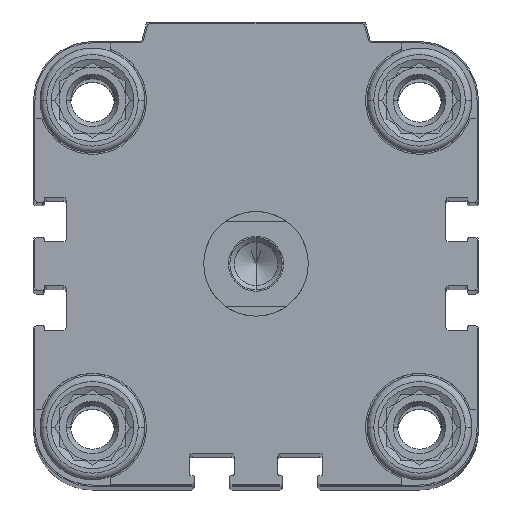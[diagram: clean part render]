
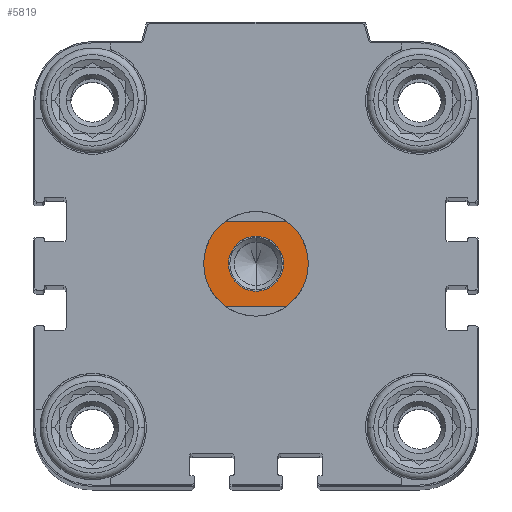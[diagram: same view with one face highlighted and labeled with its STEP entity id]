
A CAD part, top view. The second image highlights one B-rep face of the part: STEP entity #5819.
In plain terms, the highlighted planar face has unit normal (0, 0, 1).
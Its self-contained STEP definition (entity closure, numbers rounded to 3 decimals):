
#434 = DIRECTION ( 'NONE',  ( -1., 0., 0. ) ) ;
#614 = CARTESIAN_POINT ( 'NONE',  ( 8., 0., 7.5 ) ) ;
#996 = AXIS2_PLACEMENT_3D ( 'NONE', #6424, #11589, #15475 ) ;
#1095 = DIRECTION ( 'NONE',  ( -1., 0., 0. ) ) ;
#1187 = CARTESIAN_POINT ( 'NONE',  ( -4.664, 6.5, 7.5 ) ) ;
#1288 = CARTESIAN_POINT ( 'NONE',  ( 0., 0., 7.5 ) ) ;
#1438 = ORIENTED_EDGE ( 'NONE', *, *, #22442, .F. ) ;
#1703 = VECTOR ( 'NONE', #12808, 1000. ) ;
#1789 = VERTEX_POINT ( 'NONE', #1187 ) ;
#2489 = DIRECTION ( 'NONE',  ( 0., 0., -1. ) ) ;
#2519 = ORIENTED_EDGE ( 'NONE', *, *, #14056, .F. ) ;
#2920 = AXIS2_PLACEMENT_3D ( 'NONE', #15068, #9465, #18502 ) ;
#3107 = DIRECTION ( 'NONE',  ( -1., 0., 0. ) ) ;
#3408 = ORIENTED_EDGE ( 'NONE', *, *, #14472, .F. ) ;
#3797 = VERTEX_POINT ( 'NONE', #12081 ) ;
#3902 = ORIENTED_EDGE ( 'NONE', *, *, #12366, .F. ) ;
#4101 = LINE ( 'NONE', #18410, #1703 ) ;
#4196 = CARTESIAN_POINT ( 'NONE',  ( 0., 0., 7.5 ) ) ;
#4314 = AXIS2_PLACEMENT_3D ( 'NONE', #4196, #2489, #7855 ) ;
#4461 = AXIS2_PLACEMENT_3D ( 'NONE', #14664, #4474, #18096 ) ;
#4474 = DIRECTION ( 'NONE',  ( 0., 0., -1. ) ) ;
#5325 = ORIENTED_EDGE ( 'NONE', *, *, #12903, .F. ) ;
#5607 = CARTESIAN_POINT ( 'NONE',  ( -13., 6.5, 7.5 ) ) ;
#5756 = VERTEX_POINT ( 'NONE', #14683 ) ;
#5819 = ADVANCED_FACE ( 'NONE', ( #6541, #22113 ), #8490, .F. ) ;
#6287 = EDGE_LOOP ( 'NONE', ( #10599, #7750 ) ) ;
#6424 = CARTESIAN_POINT ( 'NONE',  ( 0., 0., 7.5 ) ) ;
#6541 = FACE_OUTER_BOUND ( 'NONE', #8592, .T. ) ;
#6553 = ORIENTED_EDGE ( 'NONE', *, *, #14403, .F. ) ;
#6872 = CIRCLE ( 'NONE', #4314, 4.2 ) ;
#7008 = CIRCLE ( 'NONE', #4461, 8. ) ;
#7750 = ORIENTED_EDGE ( 'NONE', *, *, #17271, .T. ) ;
#7855 = DIRECTION ( 'NONE',  ( 0., 1., 0. ) ) ;
#7903 = VECTOR ( 'NONE', #14068, 1000. ) ;
#8261 = DIRECTION ( 'NONE',  ( 0., 0., -1. ) ) ;
#8490 = PLANE ( 'NONE',  #996 ) ;
#8592 = EDGE_LOOP ( 'NONE', ( #6553, #1438, #5325, #3408, #3902, #2519 ) ) ;
#9465 = DIRECTION ( 'NONE',  ( 0., 0., -1. ) ) ;
#9976 = CIRCLE ( 'NONE', #12159, 8. ) ;
#10599 = ORIENTED_EDGE ( 'NONE', *, *, #16153, .T. ) ;
#11170 = AXIS2_PLACEMENT_3D ( 'NONE', #17811, #17921, #434 ) ;
#11346 = VERTEX_POINT ( 'NONE', #17965 ) ;
#11494 = CARTESIAN_POINT ( 'NONE',  ( 0., 0., 7.5 ) ) ;
#11589 = DIRECTION ( 'NONE',  ( 0., 0., -1. ) ) ;
#12081 = CARTESIAN_POINT ( 'NONE',  ( -8., 0., 7.5 ) ) ;
#12159 = AXIS2_PLACEMENT_3D ( 'NONE', #11494, #16762, #1095 ) ;
#12366 = EDGE_CURVE ( 'NONE', #12708, #11346, #9976, .T. ) ;
#12415 = CARTESIAN_POINT ( 'NONE',  ( -4.664, -6.5, 7.5 ) ) ;
#12696 = LINE ( 'NONE', #5607, #7903 ) ;
#12708 = VERTEX_POINT ( 'NONE', #614 ) ;
#12808 = DIRECTION ( 'NONE',  ( -1., 0., 0. ) ) ;
#12903 = EDGE_CURVE ( 'NONE', #16383, #3797, #13677, .T. ) ;
#13677 = CIRCLE ( 'NONE', #14766, 8. ) ;
#14056 = EDGE_CURVE ( 'NONE', #19049, #12708, #7008, .T. ) ;
#14068 = DIRECTION ( 'NONE',  ( 1., 0., 0. ) ) ;
#14403 = EDGE_CURVE ( 'NONE', #1789, #19049, #12696, .T. ) ;
#14472 = EDGE_CURVE ( 'NONE', #11346, #16383, #4101, .T. ) ;
#14664 = CARTESIAN_POINT ( 'NONE',  ( 0., 0., 7.5 ) ) ;
#14683 = CARTESIAN_POINT ( 'NONE',  ( 0., 4.2, 7.5 ) ) ;
#14766 = AXIS2_PLACEMENT_3D ( 'NONE', #1288, #8261, #3107 ) ;
#14881 = VERTEX_POINT ( 'NONE', #17924 ) ;
#14979 = CIRCLE ( 'NONE', #2920, 4.2 ) ;
#15068 = CARTESIAN_POINT ( 'NONE',  ( 0., 0., 7.5 ) ) ;
#15475 = DIRECTION ( 'NONE',  ( 0., 1., 0. ) ) ;
#16153 = EDGE_CURVE ( 'NONE', #5756, #14881, #6872, .T. ) ;
#16253 = CARTESIAN_POINT ( 'NONE',  ( 4.664, 6.5, 7.5 ) ) ;
#16383 = VERTEX_POINT ( 'NONE', #12415 ) ;
#16762 = DIRECTION ( 'NONE',  ( 0., 0., -1. ) ) ;
#17271 = EDGE_CURVE ( 'NONE', #14881, #5756, #14979, .T. ) ;
#17811 = CARTESIAN_POINT ( 'NONE',  ( 0., 0., 7.5 ) ) ;
#17921 = DIRECTION ( 'NONE',  ( 0., 0., -1. ) ) ;
#17924 = CARTESIAN_POINT ( 'NONE',  ( 0., -4.2, 7.5 ) ) ;
#17965 = CARTESIAN_POINT ( 'NONE',  ( 4.664, -6.5, 7.5 ) ) ;
#18096 = DIRECTION ( 'NONE',  ( -1., 0., 0. ) ) ;
#18410 = CARTESIAN_POINT ( 'NONE',  ( 13., -6.5, 7.5 ) ) ;
#18502 = DIRECTION ( 'NONE',  ( 0., 1., 0. ) ) ;
#19049 = VERTEX_POINT ( 'NONE', #16253 ) ;
#19207 = CIRCLE ( 'NONE', #11170, 8. ) ;
#22113 = FACE_BOUND ( 'NONE', #6287, .T. ) ;
#22442 = EDGE_CURVE ( 'NONE', #3797, #1789, #19207, .T. ) ;
